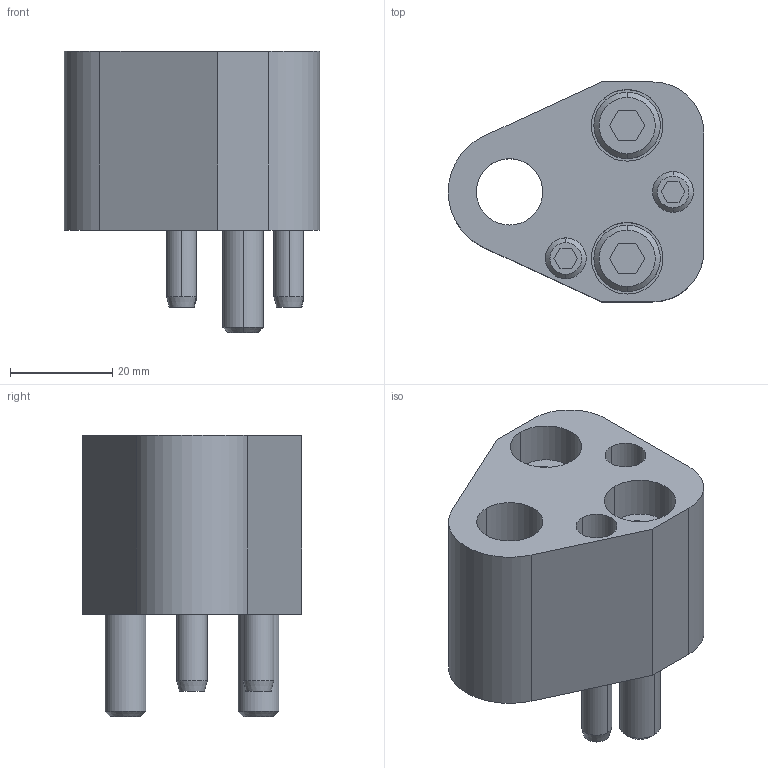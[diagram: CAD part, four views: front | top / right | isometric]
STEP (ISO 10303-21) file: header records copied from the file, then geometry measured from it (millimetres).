
FILE_DESCRIPTION(/* description */ (''),/* implementation_level */ '2;1');
FILE_NAME(/* name */ '3d_hapar13_04006_r00.stp',/* time_stamp */ '2011-01-10T14:14:57+09:00',/* author */ ('MISUMI'),/* organization */ (''),/* preprocessor_version */ 'ST-DEVELOPER v11',/* originating_system */ 'UGS - NX 5.0',/* authorisation */ '');
FILE_SCHEMA (('CONFIG_CONTROL_DESIGN'));
Length unit declared in the file: millimetre
Products named in the file (1): 3d_hapar13_04006_r00
Bounding box: 50 x 43 x 55 mm (x, y, z)
Volume: 50949.1 mm3; surface area: 18963.3 mm2
Topology: 7 solids, 7 shells, 135 faces, 294 edges, 188 vertices
Faces by surface type: plane 60, cylinder 49, cone 26
Entity records: 3836 total; most frequent: DIRECTION 684, CARTESIAN_POINT 672, ORIENTED_EDGE 588, EDGE_CURVE 294, AXIS2_PLACEMENT_3D 260, VERTEX_POINT 188, LINE 164, VECTOR 164
